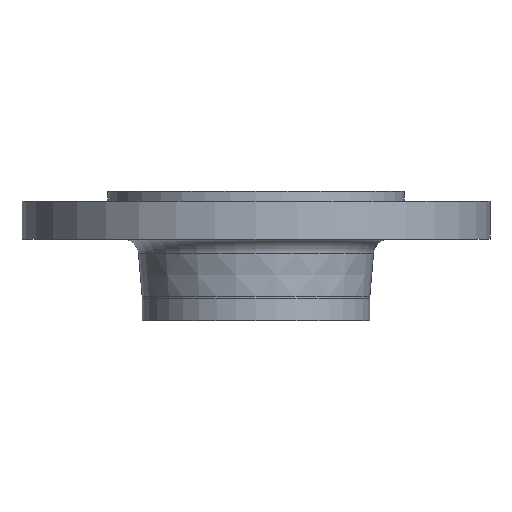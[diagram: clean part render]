
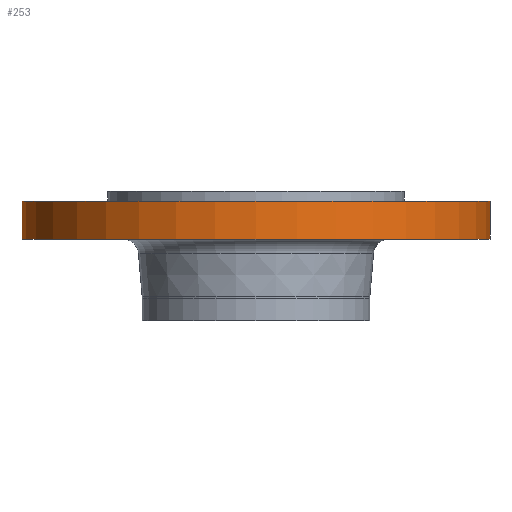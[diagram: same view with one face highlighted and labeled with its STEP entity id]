
A CAD part, front view. The second image highlights one B-rep face of the part: STEP entity #253.
In plain terms, the highlighted cylindrical face has radius 117.5 mm (diameter 235 mm), a partial arc.
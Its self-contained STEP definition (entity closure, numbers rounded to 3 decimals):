
#15 = CARTESIAN_POINT ( 'NONE',  ( -117.5, 0., -24. ) ) ;
#32 = CARTESIAN_POINT ( 'NONE',  ( 117.5, 0., -24. ) ) ;
#54 = CARTESIAN_POINT ( 'NONE',  ( -117.5, 0., -5. ) ) ;
#55 = CARTESIAN_POINT ( 'NONE',  ( 117.5, 0., -5. ) ) ;
#132 = VECTOR ( 'NONE', #653, 1000. ) ;
#134 = AXIS2_PLACEMENT_3D ( 'NONE', #624, #1018, #1008 ) ;
#163 = VECTOR ( 'NONE', #664, 1000. ) ;
#253 = ADVANCED_FACE ( 'NONE', ( #639 ), #623, .T. ) ;
#275 = EDGE_CURVE ( 'NONE', #1086, #1057, #628, .T. ) ;
#346 = DIRECTION ( 'NONE',  ( -1., 0., 0. ) ) ;
#347 = DIRECTION ( 'NONE',  ( 0., 0., -1. ) ) ;
#348 = CARTESIAN_POINT ( 'NONE',  ( 0., 0., -24. ) ) ;
#407 = EDGE_CURVE ( 'NONE', #1101, #1060, #661, .T. ) ;
#499 = CIRCLE ( 'NONE', #529, 117.5 ) ;
#516 = DIRECTION ( 'NONE',  ( -1., 0., 0. ) ) ;
#517 = DIRECTION ( 'NONE',  ( 0., 0., -1. ) ) ;
#518 = CARTESIAN_POINT ( 'NONE',  ( 0., 0., -5. ) ) ;
#529 = AXIS2_PLACEMENT_3D ( 'NONE', #518, #517, #516 ) ;
#611 = CARTESIAN_POINT ( 'NONE',  ( 117.5, 0., -75. ) ) ;
#623 = CYLINDRICAL_SURFACE ( 'NONE', #134, 117.5 ) ;
#624 = CARTESIAN_POINT ( 'NONE',  ( 0., 0., -75. ) ) ;
#628 = LINE ( 'NONE', #611, #132 ) ;
#639 = FACE_OUTER_BOUND ( 'NONE', #784, .T. ) ;
#653 = DIRECTION ( 'NONE',  ( 0., 0., 1. ) ) ;
#659 = CARTESIAN_POINT ( 'NONE',  ( -117.5, 0., -75. ) ) ;
#661 = LINE ( 'NONE', #659, #163 ) ;
#664 = DIRECTION ( 'NONE',  ( 0., 0., 1. ) ) ;
#692 = CIRCLE ( 'NONE', #695, 117.5 ) ;
#695 = AXIS2_PLACEMENT_3D ( 'NONE', #348, #347, #346 ) ;
#704 = EDGE_CURVE ( 'NONE', #1057, #1060, #499, .T. ) ;
#784 = EDGE_LOOP ( 'NONE', ( #1194, #1196, #1197, #1198 ) ) ;
#928 = EDGE_CURVE ( 'NONE', #1086, #1101, #692, .T. ) ;
#1008 = DIRECTION ( 'NONE',  ( 1., 0., 0. ) ) ;
#1018 = DIRECTION ( 'NONE',  ( 0., 0., 1. ) ) ;
#1057 = VERTEX_POINT ( 'NONE', #55 ) ;
#1060 = VERTEX_POINT ( 'NONE', #54 ) ;
#1086 = VERTEX_POINT ( 'NONE', #32 ) ;
#1101 = VERTEX_POINT ( 'NONE', #15 ) ;
#1194 = ORIENTED_EDGE ( 'NONE', *, *, #407, .F. ) ;
#1196 = ORIENTED_EDGE ( 'NONE', *, *, #928, .F. ) ;
#1197 = ORIENTED_EDGE ( 'NONE', *, *, #275, .T. ) ;
#1198 = ORIENTED_EDGE ( 'NONE', *, *, #704, .T. ) ;
